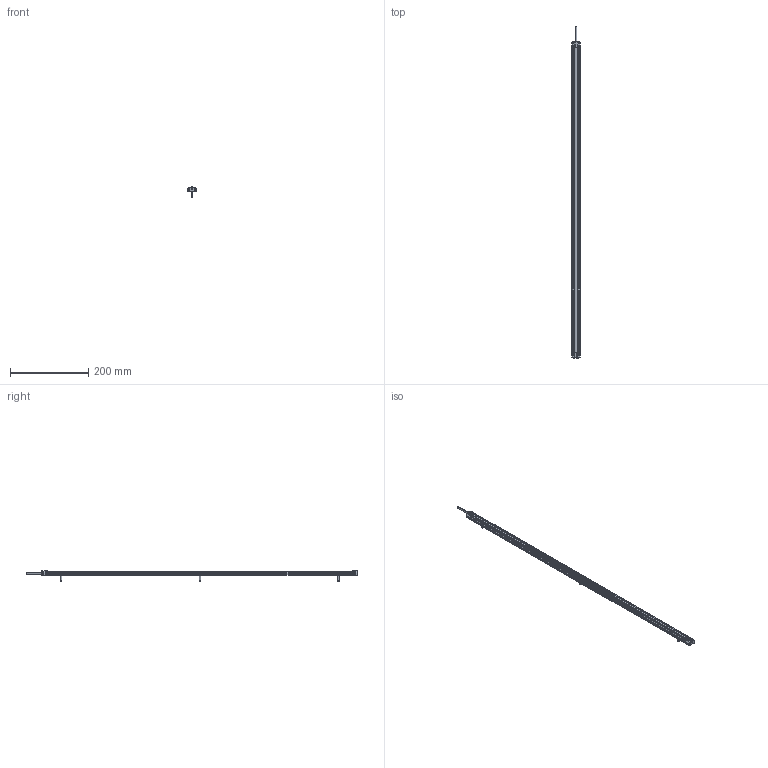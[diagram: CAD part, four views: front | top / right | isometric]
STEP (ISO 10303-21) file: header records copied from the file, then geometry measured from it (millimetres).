
FILE_DESCRIPTION (( 'STEP AP214' ), '1' );
FILE_NAME ('ILGA-B-K1-0810mm.STEP', '2026-04-24T22:49:58', ( '' ), ( '' ), 'SwSTEP 2.0', 'SolidWorks 2025', '' );
FILE_SCHEMA (( 'AUTOMOTIVE_DESIGN' ));
Length unit declared in the file: millimetre
Products named in the file (1): ILGA-B-K1-0810mm
Bounding box: 22.4 x 850 x 25.7 mm (x, y, z)
Volume: 62921.5 mm3; surface area: 111181 mm2
Topology: 12 solids, 12 shells, 715 faces, 1840 edges, 1126 vertices
Faces by surface type: plane 311, cylinder 264, cone 58, torus 42, bspline 24, sphere 16
Entity records: 29893 total; most frequent: CARTESIAN_POINT 4582, DIRECTION 3776, ORIENTED_EDGE 3592, EDGE_CURVE 1796, AXIS2_PLACEMENT_3D 1408, VERTEX_POINT 1126, VECTOR 960, LINE 960
